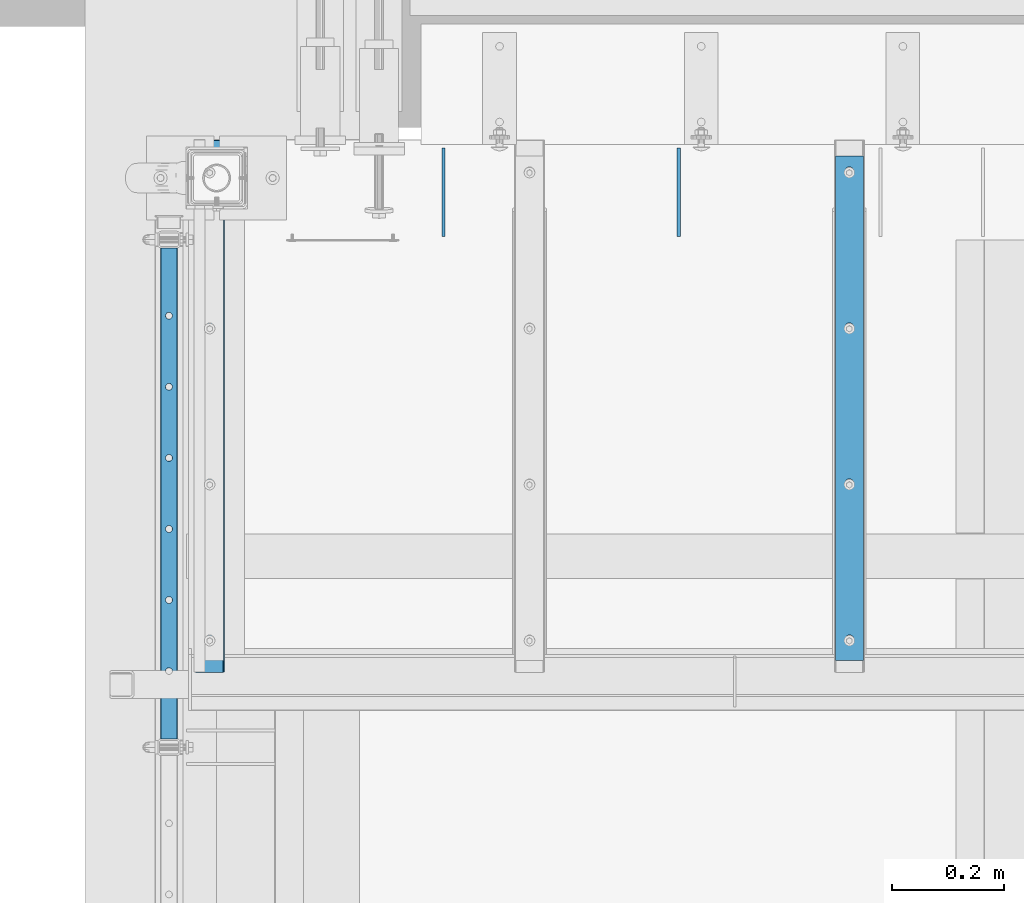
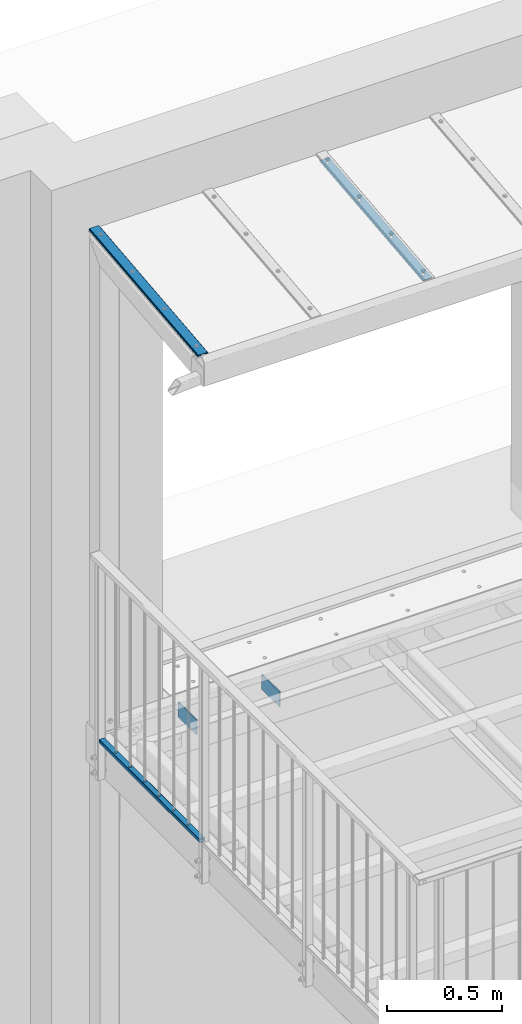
# One storey, part 17 of 116: 3 beams, 2 members, 14 openings.
"""IFC2X3 building model written with IfcOpenShell, lengths in millimetres."""

from ifc_helpers import new_model, entity, si_unit, converted_unit, point, frame, frame_2d, origin, origin_with_axes, origin_2d, origin_2d_with_axis, place, context, project, spatial, polyline, circle_curve, line_curve, trimmed, segment, composite_curve, rectangle, hollow_rectangle, circle, outline, extrude, material, element, save


model = new_model("IFC2X3")

# Units and contexts
model_context = context("Model", 3, precision=1e-09, world=origin_with_axes())
ifc_project = project(units=[si_unit("LENGTHUNIT", "METRE", prefix="MILLI"), si_unit("AREAUNIT", "SQUARE_METRE"), si_unit("VOLUMEUNIT", "CUBIC_METRE"), converted_unit("PLANEANGLEUNIT", "DEGREE", entity("IfcPlaneAngleMeasure", 0.01745329), si_unit("PLANEANGLEUNIT", "RADIAN"), dimensions=[0, 0, 0, 0, 0, 0, 0])], contexts=[model_context])

# Site, building, storey
site_placement = place(None, origin_with_axes())
site = spatial("IfcSite", under=ifc_project, at=site_placement, Name="Site", CompositionType="ELEMENT")
building_placement = place(site_placement, origin_with_axes())
building = spatial("IfcBuilding", under=site, at=building_placement, Name="Struktur 1", CompositionType="ELEMENT")
storey_placement = place(building_placement, origin_with_axes())
storey = spatial("IfcBuildingStorey", under=building, at=storey_placement, Name="Default Storey", CompositionType="ELEMENT", Elevation=0.0)

# Member, openings
ifc_material = material(Name="S235JR")
member_1_placement = place(None, frame((56466.549134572, 11101.758740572, 2500.052276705), z_axis=(0.0, -0.994521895, -0.104528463), x_axis=(1.0, 0.0, 0.0)))
member_1 = element("IfcMember", 1, at=member_1_placement, inside=storey, material=ifc_material, Name="-", ObjectType="-", context=model_context, shape_type="SweptSolid", body=[
    extrude(outline(polyline([(-25.0, 1.5), (-25.0, -1.5), (25.0, -1.5), (25.0, 1.5), (-25.0, 1.5)])), origin(), (0.0, 0.0, -1.0), 904.995580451),
])
opening_1_placement = place(member_1_placement, frame((2e-09, -2.0, -37.497790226), z_axis=(0.0, 1.0, 0.0), x_axis=(1.0, 0.0, 0.0)))
element("IfcOpeningElement", 2, at=opening_1_placement, cuts=member_1, ObjectType="Opening", context=model_context, shape_type="SweptSolid", body=[
    extrude(circle(Radius=8.001, at=origin_2d_with_axis()), origin(), (0.0, 0.0, 1.0), 4.0),
])
opening_2_placement = place(member_1_placement, frame((2e-09, -2.0, -317.497790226), z_axis=(0.0, 1.0, 0.0), x_axis=(1.0, 0.0, 0.0)))
element("IfcOpeningElement", 3, at=opening_2_placement, cuts=member_1, ObjectType="Opening", context=model_context, shape_type="SweptSolid", body=[
    extrude(circle(Radius=8.001, at=origin_2d_with_axis()), origin(), (0.0, 0.0, 1.0), 4.0),
])
opening_3_placement = place(member_1_placement, frame((2e-09, -2.0, -597.497790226), z_axis=(0.0, 1.0, 0.0), x_axis=(1.0, 0.0, 0.0)))
element("IfcOpeningElement", 4, at=opening_3_placement, cuts=member_1, ObjectType="Opening", context=model_context, shape_type="SweptSolid", body=[
    extrude(circle(Radius=8.001, at=origin_2d_with_axis()), origin(), (0.0, 0.0, 1.0), 4.0),
])
opening_4_placement = place(member_1_placement, frame((2e-09, -2.0, -877.497790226), z_axis=(0.0, 1.0, 0.0), x_axis=(1.0, 0.0, 0.0)))
element("IfcOpeningElement", 5, at=opening_4_placement, cuts=member_1, ObjectType="Opening", context=model_context, shape_type="SweptSolid", body=[
    extrude(circle(Radius=8.001, at=origin_2d_with_axis()), origin(), (0.0, 0.0, 1.0), 4.0),
])

member_2_placement = place(None, frame((55324.549134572, 11080.325462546, 2512.640850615), z_axis=(0.0, 0.994521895, 0.104528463), x_axis=(-1.0, 0.0, 0.0)))
member_2 = element("IfcMember", 6, at=member_2_placement, inside=storey, material=ifc_material, Name="-", ObjectType="-", context=model_context, shape_type="SweptSolid", body=[
    extrude(outline(composite_curve([segment(trimmed(line_curve((10.75, -4.5), (1.0, 0.0), 0.5), [point((10.75, -4.5))], [point((11.25, -4.5))], True, "CARTESIAN"), True, "CONTINUOUS"), segment(trimmed(line_curve((11.25, -4.5), (0.0, 1.0), 1.0), [point((11.25, -4.5))], [point((11.25, -3.5))], True, "CARTESIAN"), True, "CONTINUOUS"), segment(trimmed(line_curve((11.25, -3.5), (1.0, 0.0), 1.0), [point((11.25, -3.5))], [point((12.25, -3.5))], True, "CARTESIAN"), True, "CONTINUOUS"), segment(trimmed(line_curve((12.25, -3.5), (0.0, -1.0), 1.0), [point((12.25, -3.5))], [point((12.25, -4.5))], True, "CARTESIAN"), True, "CONTINUOUS"), segment(trimmed(line_curve((12.25, -4.5), (1.0, 0.0), 1.0), [point((12.25, -4.5))], [point((13.25, -4.5))], True, "CARTESIAN"), True, "CONTINUOUS"), segment(trimmed(line_curve((13.25, -4.5), (0.0, 1.0), 1.0), [point((13.25, -4.5))], [point((13.25, -3.5))], True, "CARTESIAN"), True, "CONTINUOUS"), segment(trimmed(line_curve((13.25, -3.5), (1.0, 0.0), 1.0), [point((13.25, -3.5))], [point((14.25, -3.5))], True, "CARTESIAN"), True, "CONTINUOUS"), segment(trimmed(line_curve((14.25, -3.5), (0.0, -1.0), 1.0), [point((14.25, -3.5))], [point((14.25, -4.5))], True, "CARTESIAN"), True, "CONTINUOUS"), segment(trimmed(line_curve((14.25, -4.5), (1.0, 0.0), 1.0), [point((14.25, -4.5))], [point((15.25, -4.5))], True, "CARTESIAN"), True, "CONTINUOUS"), segment(trimmed(line_curve((15.25, -4.5), (0.0, 1.0), 1.0), [point((15.25, -4.5))], [point((15.25, -3.5))], True, "CARTESIAN"), True, "CONTINUOUS"), segment(trimmed(line_curve((15.25, -3.5), (1.0, 0.0), 1.0), [point((15.25, -3.5))], [point((16.25, -3.5))], True, "CARTESIAN"), True, "CONTINUOUS"), segment(trimmed(line_curve((16.25, -3.5), (0.0, -1.0), 1.0), [point((16.25, -3.5))], [point((16.25, -4.5))], True, "CARTESIAN"), True, "CONTINUOUS"), segment(trimmed(line_curve((16.25, -4.5), (1.0, 0.0), 1.0), [point((16.25, -4.5))], [point((17.25, -4.5))], True, "CARTESIAN"), True, "CONTINUOUS"), segment(trimmed(line_curve((17.25, -4.5), (0.0, 1.0), 1.0), [point((17.25, -4.5))], [point((17.25, -3.5))], True, "CARTESIAN"), True, "CONTINUOUS"), segment(trimmed(line_curve((17.25, -3.5), (1.0, 0.0), 1.0), [point((17.25, -3.5))], [point((18.25, -3.5))], True, "CARTESIAN"), True, "CONTINUOUS"), segment(trimmed(line_curve((18.25, -3.5), (0.0, -1.0), 1.0), [point((18.25, -3.5))], [point((18.25, -4.5))], True, "CARTESIAN"), True, "CONTINUOUS"), segment(trimmed(line_curve((18.25, -4.5), (1.0, 0.0), 1.0), [point((18.25, -4.5))], [point((19.25, -4.5))], True, "CARTESIAN"), True, "CONTINUOUS"), segment(trimmed(line_curve((19.25, -4.5), (0.0, 1.0), 1.0), [point((19.25, -4.5))], [point((19.25, -3.5))], True, "CARTESIAN"), True, "CONTINUOUS"), segment(trimmed(line_curve((19.25, -3.5), (1.0, 0.0), 1.0), [point((19.25, -3.5))], [point((20.25, -3.5))], True, "CARTESIAN"), True, "CONTINUOUS"), segment(trimmed(line_curve((20.25, -3.5), (0.0, -1.0), 1.0), [point((20.25, -3.5))], [point((20.25, -4.5))], True, "CARTESIAN"), True, "CONTINUOUS"), segment(trimmed(line_curve((20.25, -4.5), (1.0, 0.0), 1.0), [point((20.25, -4.5))], [point((21.25, -4.5))], True, "CARTESIAN"), True, "CONTINUOUS"), segment(trimmed(line_curve((21.25, -4.5), (0.0, 1.0), 1.0), [point((21.25, -4.5))], [point((21.25, -3.5))], True, "CARTESIAN"), True, "CONTINUOUS"), segment(trimmed(line_curve((21.25, -3.5), (1.0, 0.0), 1.0), [point((21.25, -3.5))], [point((22.25, -3.5))], True, "CARTESIAN"), True, "CONTINUOUS"), segment(trimmed(line_curve((22.25, -3.5), (0.0, -1.0), 1.0), [point((22.25, -3.5))], [point((22.25, -4.5))], True, "CARTESIAN"), True, "CONTINUOUS"), segment(trimmed(line_curve((22.25, -4.5), (1.0, 0.0), 1.0), [point((22.25, -4.5))], [point((23.25, -4.5))], True, "CARTESIAN"), True, "CONTINUOUS"), segment(trimmed(line_curve((23.25, -4.5), (0.0, 1.0), 1.0), [point((23.25, -4.5))], [point((23.25, -3.5))], True, "CARTESIAN"), True, "CONTINUOUS"), segment(trimmed(line_curve((23.25, -3.5), (1.0, 0.0), 1.0), [point((23.25, -3.5))], [point((24.25, -3.5))], True, "CARTESIAN"), True, "CONTINUOUS"), segment(trimmed(line_curve((24.25, -3.5), (0.0, -1.0), 1.0), [point((24.25, -3.5))], [point((24.25, -4.5))], True, "CARTESIAN"), True, "CONTINUOUS"), segment(trimmed(line_curve((24.25, -4.5), (1.0, 0.0), 1.0), [point((24.25, -4.5))], [point((25.25, -4.5))], True, "CARTESIAN"), True, "CONTINUOUS"), segment(trimmed(line_curve((25.25, -4.5), (0.0, 1.0), 1.0), [point((25.25, -4.5))], [point((25.25, -3.5))], True, "CARTESIAN"), True, "CONTINUOUS"), segment(trimmed(line_curve((25.25, -3.5), (1.0, 0.0), 1.0), [point((25.25, -3.5))], [point((26.25, -3.5))], True, "CARTESIAN"), True, "CONTINUOUS"), segment(trimmed(line_curve((26.25, -3.5), (0.0, -1.0), 1.0), [point((26.25, -3.5))], [point((26.25, -4.5))], True, "CARTESIAN"), True, "CONTINUOUS"), segment(trimmed(line_curve((26.25, -4.5), (1.0, 0.0), 0.5), [point((26.25, -4.5))], [point((26.75, -4.5))], True, "CARTESIAN"), True, "CONTINUOUS"), segment(trimmed(line_curve((26.75, -4.5), (0.0, 1.0), 4.0), [point((26.75, -4.5))], [point((26.75, -0.5))], True, "CARTESIAN"), True, "CONTINUOUS"), segment(trimmed(line_curve((26.75, -0.5), (-1.0, 0.0), 1.75), [point((26.75, -0.5))], [point((25.0, -0.5))], True, "CARTESIAN"), True, "CONTINUOUS"), segment(trimmed(line_curve((25.0, -0.5), (0.0, 1.0), 1.5), [point((25.0, -0.5))], [point((25.0, 1.0))], True, "CARTESIAN"), True, "CONTINUOUS"), segment(trimmed(circle_curve(frame_2d((21.499999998, 0.999999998), x_axis=(1.0, 0.0)), 3.500000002), [point((25.0, 1.0))], [point((21.5, 4.5))], True, "CARTESIAN"), True, "CONTINUOUS"), segment(trimmed(line_curve((21.5, 4.5), (-1.0, 0.0), 43.0), [point((21.5, 4.5))], [point((-21.5, 4.5))], True, "CARTESIAN"), True, "CONTINUOUS"), segment(trimmed(circle_curve(frame_2d((-21.499999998, 0.999999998), x_axis=(1.0, 0.0)), 3.500000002), [point((-21.5, 4.5))], [point((-25.0, 1.0))], True, "CARTESIAN"), True, "CONTINUOUS"), segment(trimmed(line_curve((-25.0, 1.0), (0.0, -1.0), 1.5), [point((-25.0, 1.0))], [point((-25.0, -0.5))], True, "CARTESIAN"), True, "CONTINUOUS"), segment(trimmed(line_curve((-25.0, -0.5), (-1.0, 0.0), 1.75), [point((-25.0, -0.5))], [point((-26.75, -0.5))], True, "CARTESIAN"), True, "CONTINUOUS"), segment(trimmed(line_curve((-26.75, -0.5), (0.0, -1.0), 4.0), [point((-26.75, -0.5))], [point((-26.75, -4.5))], True, "CARTESIAN"), True, "CONTINUOUS"), segment(trimmed(line_curve((-26.75, -4.5), (1.0, 0.0), 0.5), [point((-26.75, -4.5))], [point((-26.25, -4.5))], True, "CARTESIAN"), True, "CONTINUOUS"), segment(trimmed(line_curve((-26.25, -4.5), (0.0, 1.0), 1.0), [point((-26.25, -4.5))], [point((-26.25, -3.5))], True, "CARTESIAN"), True, "CONTINUOUS"), segment(trimmed(line_curve((-26.25, -3.5), (1.0, 0.0), 1.0), [point((-26.25, -3.5))], [point((-25.25, -3.5))], True, "CARTESIAN"), True, "CONTINUOUS"), segment(trimmed(line_curve((-25.25, -3.5), (0.0, -1.0), 1.0), [point((-25.25, -3.5))], [point((-25.25, -4.5))], True, "CARTESIAN"), True, "CONTINUOUS"), segment(trimmed(line_curve((-25.25, -4.5), (1.0, 0.0), 1.0), [point((-25.25, -4.5))], [point((-24.25, -4.5))], True, "CARTESIAN"), True, "CONTINUOUS"), segment(trimmed(line_curve((-24.25, -4.5), (0.0, 1.0), 1.0), [point((-24.25, -4.5))], [point((-24.25, -3.5))], True, "CARTESIAN"), True, "CONTINUOUS"), segment(trimmed(line_curve((-24.25, -3.5), (1.0, 0.0), 1.0), [point((-24.25, -3.5))], [point((-23.25, -3.5))], True, "CARTESIAN"), True, "CONTINUOUS"), segment(trimmed(line_curve((-23.25, -3.5), (0.0, -1.0), 1.0), [point((-23.25, -3.5))], [point((-23.25, -4.5))], True, "CARTESIAN"), True, "CONTINUOUS"), segment(trimmed(line_curve((-23.25, -4.5), (1.0, 0.0), 1.0), [point((-23.25, -4.5))], [point((-22.25, -4.5))], True, "CARTESIAN"), True, "CONTINUOUS"), segment(trimmed(line_curve((-22.25, -4.5), (0.0, 1.0), 1.0), [point((-22.25, -4.5))], [point((-22.25, -3.5))], True, "CARTESIAN"), True, "CONTINUOUS"), segment(trimmed(line_curve((-22.25, -3.5), (1.0, 0.0), 1.0), [point((-22.25, -3.5))], [point((-21.25, -3.5))], True, "CARTESIAN"), True, "CONTINUOUS"), segment(trimmed(line_curve((-21.25, -3.5), (0.0, -1.0), 1.0), [point((-21.25, -3.5))], [point((-21.25, -4.5))], True, "CARTESIAN"), True, "CONTINUOUS"), segment(trimmed(line_curve((-21.25, -4.5), (1.0, 0.0), 1.0), [point((-21.25, -4.5))], [point((-20.25, -4.5))], True, "CARTESIAN"), True, "CONTINUOUS"), segment(trimmed(line_curve((-20.25, -4.5), (0.0, 1.0), 1.0), [point((-20.25, -4.5))], [point((-20.25, -3.5))], True, "CARTESIAN"), True, "CONTINUOUS"), segment(trimmed(line_curve((-20.25, -3.5), (1.0, 0.0), 1.0), [point((-20.25, -3.5))], [point((-19.25, -3.5))], True, "CARTESIAN"), True, "CONTINUOUS"), segment(trimmed(line_curve((-19.25, -3.5), (0.0, -1.0), 1.0), [point((-19.25, -3.5))], [point((-19.25, -4.5))], True, "CARTESIAN"), True, "CONTINUOUS"), segment(trimmed(line_curve((-19.25, -4.5), (1.0, 0.0), 1.0), [point((-19.25, -4.5))], [point((-18.25, -4.5))], True, "CARTESIAN"), True, "CONTINUOUS"), segment(trimmed(line_curve((-18.25, -4.5), (0.0, 1.0), 1.0), [point((-18.25, -4.5))], [point((-18.25, -3.5))], True, "CARTESIAN"), True, "CONTINUOUS"), segment(trimmed(line_curve((-18.25, -3.5), (1.0, 0.0), 1.0), [point((-18.25, -3.5))], [point((-17.25, -3.5))], True, "CARTESIAN"), True, "CONTINUOUS"), segment(trimmed(line_curve((-17.25, -3.5), (0.0, -1.0), 1.0), [point((-17.25, -3.5))], [point((-17.25, -4.5))], True, "CARTESIAN"), True, "CONTINUOUS"), segment(trimmed(line_curve((-17.25, -4.5), (1.0, 0.0), 1.0), [point((-17.25, -4.5))], [point((-16.25, -4.5))], True, "CARTESIAN"), True, "CONTINUOUS"), segment(trimmed(line_curve((-16.25, -4.5), (0.0, 1.0), 1.0), [point((-16.25, -4.5))], [point((-16.25, -3.5))], True, "CARTESIAN"), True, "CONTINUOUS"), segment(trimmed(line_curve((-16.25, -3.5), (1.0, 0.0), 1.0), [point((-16.25, -3.5))], [point((-15.25, -3.5))], True, "CARTESIAN"), True, "CONTINUOUS"), segment(trimmed(line_curve((-15.25, -3.5), (0.0, -1.0), 1.0), [point((-15.25, -3.5))], [point((-15.25, -4.5))], True, "CARTESIAN"), True, "CONTINUOUS"), segment(trimmed(line_curve((-15.25, -4.5), (1.0, 0.0), 1.0), [point((-15.25, -4.5))], [point((-14.25, -4.5))], True, "CARTESIAN"), True, "CONTINUOUS"), segment(trimmed(line_curve((-14.25, -4.5), (0.0, 1.0), 1.0), [point((-14.25, -4.5))], [point((-14.25, -3.5))], True, "CARTESIAN"), True, "CONTINUOUS"), segment(trimmed(line_curve((-14.25, -3.5), (1.0, 0.0), 1.0), [point((-14.25, -3.5))], [point((-13.25, -3.5))], True, "CARTESIAN"), True, "CONTINUOUS"), segment(trimmed(line_curve((-13.25, -3.5), (0.0, -1.0), 1.0), [point((-13.25, -3.5))], [point((-13.25, -4.5))], True, "CARTESIAN"), True, "CONTINUOUS"), segment(trimmed(line_curve((-13.25, -4.5), (1.0, 0.0), 1.0), [point((-13.25, -4.5))], [point((-12.25, -4.5))], True, "CARTESIAN"), True, "CONTINUOUS"), segment(trimmed(line_curve((-12.25, -4.5), (0.0, 1.0), 1.0), [point((-12.25, -4.5))], [point((-12.25, -3.5))], True, "CARTESIAN"), True, "CONTINUOUS"), segment(trimmed(line_curve((-12.25, -3.5), (1.0, 0.0), 1.0), [point((-12.25, -3.5))], [point((-11.25, -3.5))], True, "CARTESIAN"), True, "CONTINUOUS"), segment(trimmed(line_curve((-11.25, -3.5), (0.0, -1.0), 1.0), [point((-11.25, -3.5))], [point((-11.25, -4.5))], True, "CARTESIAN"), True, "CONTINUOUS"), segment(trimmed(line_curve((-11.25, -4.5), (1.0, 0.0), 0.5), [point((-11.25, -4.5))], [point((-10.75, -4.5))], True, "CARTESIAN"), True, "CONTINUOUS"), segment(trimmed(line_curve((-10.75, -4.5), (0.0, 1.0), 4.0), [point((-10.75, -4.5))], [point((-10.75, -0.5))], True, "CARTESIAN"), True, "CONTINUOUS"), segment(trimmed(line_curve((-10.75, -0.5), (-1.0, 0.0), 1.75), [point((-10.75, -0.5))], [point((-12.5, -0.5))], True, "CARTESIAN"), True, "CONTINUOUS"), segment(trimmed(line_curve((-12.5, -0.5), (0.0, 1.0), 3.0), [point((-12.5, -0.5))], [point((-12.5, 2.5))], True, "CARTESIAN"), True, "CONTINUOUS"), segment(trimmed(line_curve((-12.5, 2.5), (1.0, 0.0), 25.0), [point((-12.5, 2.5))], [point((12.5, 2.5))], True, "CARTESIAN"), True, "CONTINUOUS"), segment(trimmed(line_curve((12.5, 2.5), (0.0, -1.0), 3.0), [point((12.5, 2.5))], [point((12.5, -0.5))], True, "CARTESIAN"), True, "CONTINUOUS"), segment(trimmed(line_curve((12.5, -0.5), (-1.0, 0.0), 1.75), [point((12.5, -0.5))], [point((10.75, -0.5))], True, "CARTESIAN"), True, "CONTINUOUS"), segment(trimmed(line_curve((10.75, -0.5), (0.0, -1.0), 4.0), [point((10.75, -0.5))], [point((10.75, -4.5))], True, "CARTESIAN"), True, "CONTINUOUS")], self_intersect=False), holes=[composite_curve([segment(trimmed(line_curve((16.25, -0.5), (1.0, 0.0), 5.0), [point((16.25, -0.5))], [point((21.25, -0.5))], True, "CARTESIAN"), True, "CONTINUOUS"), segment(trimmed(line_curve((21.25, -0.5), (0.0, 1.0), 1.5), [point((21.25, -0.5))], [point((21.25, 1.0))], True, "CARTESIAN"), True, "CONTINUOUS"), segment(trimmed(line_curve((21.25, 1.0), (1.0, 0.0), 2.25), [point((21.25, 1.0))], [point((23.5, 1.0))], True, "CARTESIAN"), True, "CONTINUOUS"), segment(trimmed(circle_curve(frame_2d((21.499999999, 0.999999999), x_axis=(1.0, 0.0)), 2.000000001), [point((23.5, 1.0))], [point((21.5, 3.0))], True, "CARTESIAN"), True, "CONTINUOUS"), segment(trimmed(line_curve((21.5, 3.0), (-1.0, 0.0), 7.5), [point((21.5, 3.0))], [point((14.0, 3.0))], True, "CARTESIAN"), True, "CONTINUOUS"), segment(trimmed(line_curve((14.0, 3.0), (0.0, -1.0), 2.0), [point((14.0, 3.0))], [point((14.0, 1.0))], True, "CARTESIAN"), True, "CONTINUOUS"), segment(trimmed(line_curve((14.0, 1.0), (1.0, 0.0), 2.25), [point((14.0, 1.0))], [point((16.25, 1.0))], True, "CARTESIAN"), True, "CONTINUOUS"), segment(trimmed(line_curve((16.25, 1.0), (0.0, -1.0), 1.5), [point((16.25, 1.0))], [point((16.25, -0.5))], True, "CARTESIAN"), True, "CONTINUOUS")], self_intersect=False), composite_curve([segment(trimmed(line_curve((-16.25, -0.5), (0.0, 1.0), 1.5), [point((-16.25, -0.5))], [point((-16.25, 1.0))], True, "CARTESIAN"), True, "CONTINUOUS"), segment(trimmed(line_curve((-16.25, 1.0), (1.0, 0.0), 2.25), [point((-16.25, 1.0))], [point((-14.0, 1.0))], True, "CARTESIAN"), True, "CONTINUOUS"), segment(trimmed(line_curve((-14.0, 1.0), (0.0, 1.0), 2.0), [point((-14.0, 1.0))], [point((-14.0, 3.0))], True, "CARTESIAN"), True, "CONTINUOUS"), segment(trimmed(line_curve((-14.0, 3.0), (-1.0, 0.0), 7.5), [point((-14.0, 3.0))], [point((-21.5, 3.0))], True, "CARTESIAN"), True, "CONTINUOUS"), segment(trimmed(circle_curve(frame_2d((-21.499999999, 0.999999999), x_axis=(1.0, 0.0)), 2.000000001), [point((-21.5, 3.0))], [point((-23.5, 1.0))], True, "CARTESIAN"), True, "CONTINUOUS"), segment(trimmed(line_curve((-23.5, 1.0), (1.0, 0.0), 2.25), [point((-23.5, 1.0))], [point((-21.25, 1.0))], True, "CARTESIAN"), True, "CONTINUOUS"), segment(trimmed(line_curve((-21.25, 1.0), (0.0, -1.0), 1.5), [point((-21.25, 1.0))], [point((-21.25, -0.5))], True, "CARTESIAN"), True, "CONTINUOUS"), segment(trimmed(line_curve((-21.25, -0.5), (1.0, 0.0), 5.0), [point((-21.25, -0.5))], [point((-16.25, -0.5))], True, "CARTESIAN"), True, "CONTINUOUS")], self_intersect=False)]), origin(), (0.0, 0.0, 1.0), 954.995580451),
])
opening_5_placement = place(member_2_placement, frame((-6.000999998, 2.0, 617.497790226), z_axis=(0.0, -1.0, 0.0), x_axis=(1.0, 0.0, 0.0)))
element("IfcOpeningElement", 7, at=opening_5_placement, cuts=member_2, ObjectType="Opening", context=model_context, shape_type="SweptSolid", body=[
    extrude(circle(Radius=6.001, at=frame_2d((6.001, 0.0), x_axis=(1.0, 0.0))), origin(), (0.0, 0.0, -1.0), 3.0),
])
opening_6_placement = place(member_2_placement, frame((-6.000999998, 2.0, 897.497790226), z_axis=(0.0, -1.0, 0.0), x_axis=(1.0, 0.0, 0.0)))
element("IfcOpeningElement", 8, at=opening_6_placement, cuts=member_2, ObjectType="Opening", context=model_context, shape_type="SweptSolid", body=[
    extrude(circle(Radius=6.001, at=frame_2d((6.001, 0.0), x_axis=(1.0, 0.0))), origin(), (0.0, 0.0, -1.0), 3.0),
])
opening_7_placement = place(member_2_placement, frame((-6.000999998, 2.0, 57.497790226), z_axis=(0.0, -1.0, 0.0), x_axis=(1.0, 0.0, 0.0)))
element("IfcOpeningElement", 9, at=opening_7_placement, cuts=member_2, ObjectType="Opening", context=model_context, shape_type="SweptSolid", body=[
    extrude(circle(Radius=6.001, at=frame_2d((6.001, 0.0), x_axis=(1.0, 0.0))), origin(), (0.0, 0.0, -1.0), 3.0),
])
opening_8_placement = place(member_2_placement, frame((-6.000999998, 2.0, 337.497790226), z_axis=(0.0, -1.0, 0.0), x_axis=(1.0, 0.0, 0.0)))
element("IfcOpeningElement", 10, at=opening_8_placement, cuts=member_2, ObjectType="Opening", context=model_context, shape_type="SweptSolid", body=[
    extrude(circle(Radius=6.001, at=frame_2d((6.001, 0.0), x_axis=(1.0, 0.0))), origin(), (0.0, 0.0, -1.0), 3.0),
])

# Beam
beam_1_placement = place(None, frame((56162.049134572, 11858.358883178, -88.0), z_axis=(0.0, 1.0, 0.0), x_axis=(-1.0, 0.0, 0.0)))
element("IfcBeam", 11, at=beam_1_placement, inside=storey, material=ifc_material, Name="-", ObjectType="-", context=model_context, shape_type="SweptSolid", body=[
    extrude(rectangle(XDim=6.0, YDim=80.0, at=origin_2d()), origin(), (0.0, 0.0, 1.0), 158.0),
])

# Beam, openings
beam_2_placement = place(None, frame((55252.049134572, 10961.358883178, 25.0), z_axis=(0.0, -1.0, 0.0), x_axis=(0.0, 0.0, -1.0)))
beam_2 = element("IfcBeam", 12, at=beam_2_placement, inside=storey, material=ifc_material, Name="-", ObjectType="-", context=model_context, shape_type="SweptSolid", body=[
    extrude(hollow_rectangle(XDim=20.0, YDim=30.0, WallThickness=2.0, InnerFilletRadius=2.0, OuterFilletRadius=4.0, at=origin_2d()), origin(), (0.0, 0.0, -1.0), 876.0),
])
opening_9_placement = place(beam_2_placement, frame((-7.5, 0.0, -126.0), z_axis=(-1.0, 0.0, 0.0), x_axis=(0.0, 1.0, 0.0)))
element("IfcOpeningElement", 13, at=opening_9_placement, cuts=beam_2, ObjectType="Opening", context=model_context, shape_type="SweptSolid", body=[
    extrude(circle(Radius=6.051, at=frame_2d((0.0, -5.1428574), x_axis=(1.0, 0.0))), origin(), (0.0, 0.0, 1.0), 3.0),
])
opening_10_placement = place(beam_2_placement, frame((-7.5, 0.0, -252.8571429), z_axis=(-1.0, 0.0, 0.0), x_axis=(0.0, 1.0, 0.0)))
element("IfcOpeningElement", 14, at=opening_10_placement, cuts=beam_2, ObjectType="Opening", context=model_context, shape_type="SweptSolid", body=[
    extrude(circle(Radius=6.051, at=frame_2d((0.0, -5.1428574), x_axis=(1.0, 0.0))), origin(), (0.0, 0.0, 1.0), 3.0),
])
opening_11_placement = place(beam_2_placement, frame((-7.5, 0.0, -379.7142858), z_axis=(-1.0, 0.0, 0.0), x_axis=(0.0, 1.0, 0.0)))
element("IfcOpeningElement", 15, at=opening_11_placement, cuts=beam_2, ObjectType="Opening", context=model_context, shape_type="SweptSolid", body=[
    extrude(circle(Radius=6.051, at=frame_2d((0.0, -5.1428574), x_axis=(1.0, 0.0))), origin(), (0.0, 0.0, 1.0), 3.0),
])
opening_12_placement = place(beam_2_placement, frame((-7.5, 0.0, -506.5714287), z_axis=(-1.0, 0.0, 0.0), x_axis=(0.0, 1.0, 0.0)))
element("IfcOpeningElement", 16, at=opening_12_placement, cuts=beam_2, ObjectType="Opening", context=model_context, shape_type="SweptSolid", body=[
    extrude(circle(Radius=6.051, at=frame_2d((0.0, -5.1428574), x_axis=(1.0, 0.0))), origin(), (0.0, 0.0, 1.0), 3.0),
])
opening_13_placement = place(beam_2_placement, frame((-7.5, 0.0, -633.4285716), z_axis=(-1.0, 0.0, 0.0), x_axis=(0.0, 1.0, 0.0)))
element("IfcOpeningElement", 17, at=opening_13_placement, cuts=beam_2, ObjectType="Opening", context=model_context, shape_type="SweptSolid", body=[
    extrude(circle(Radius=6.051, at=frame_2d((0.0, -5.1428574), x_axis=(1.0, 0.0))), origin(), (0.0, 0.0, 1.0), 3.0),
])
opening_14_placement = place(beam_2_placement, frame((-7.5, 0.0, -760.2857145), z_axis=(-1.0, 0.0, 0.0), x_axis=(0.0, 1.0, 0.0)))
element("IfcOpeningElement", 18, at=opening_14_placement, cuts=beam_2, ObjectType="Opening", context=model_context, shape_type="SweptSolid", body=[
    extrude(circle(Radius=6.051, at=frame_2d((0.0, -5.1428574), x_axis=(1.0, 0.0))), origin(), (0.0, 0.0, 1.0), 3.0),
])

# Beam
beam_3_placement = place(None, frame((55742.049134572, 11858.358883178, -88.0), z_axis=(0.0, 1.0, 0.0), x_axis=(-1.0, 0.0, 0.0)))
element("IfcBeam", 19, at=beam_3_placement, inside=storey, material=ifc_material, Name="-", ObjectType="-", context=model_context, shape_type="SweptSolid", body=[
    extrude(rectangle(XDim=6.0, YDim=80.0, at=origin_2d()), origin(), (0.0, 0.0, 1.0), 158.0),
])

save(model, "model.ifc")
